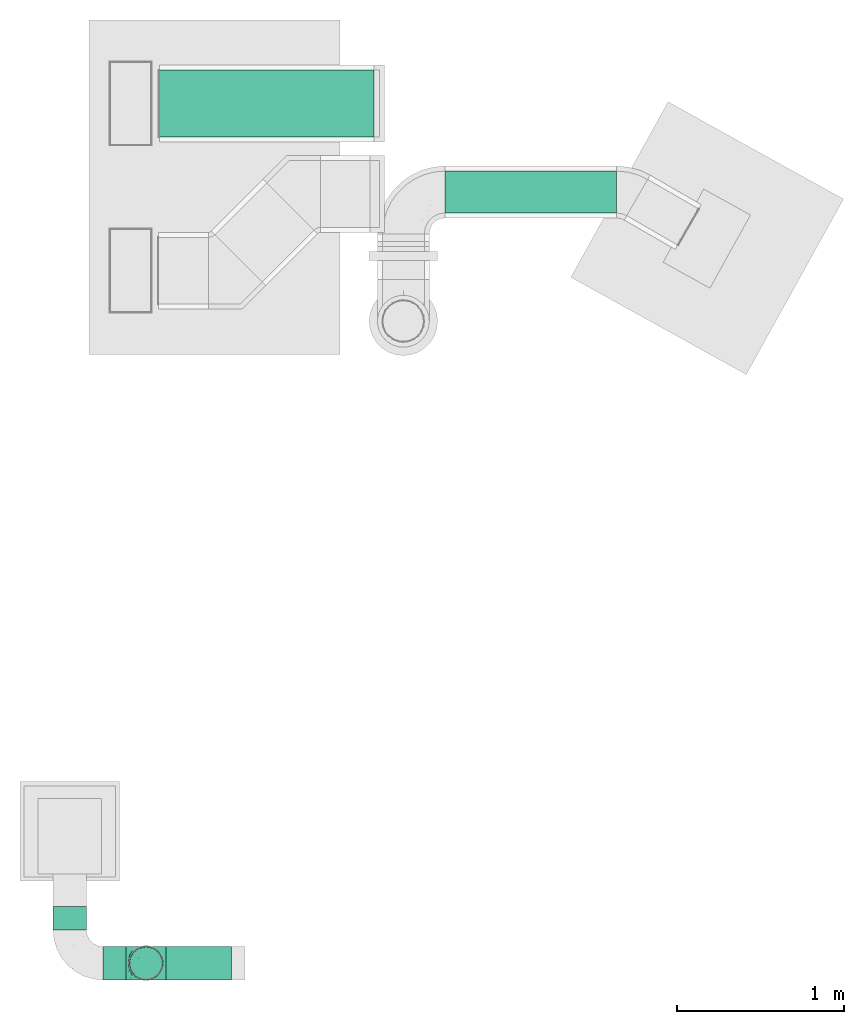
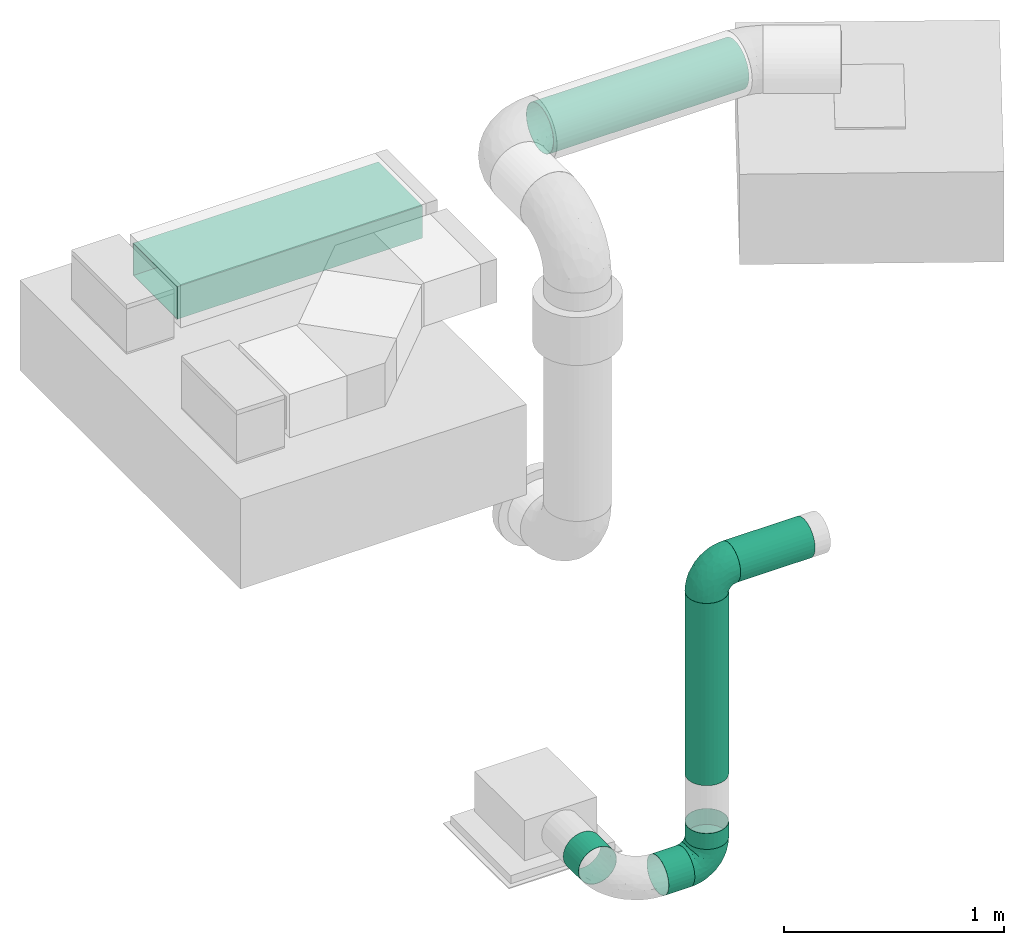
# One storey, part 3 of 9: 7 flow segments, 2 flow fittings.
"""IFC2X3 building model written with IfcOpenShell, lengths in millimetres."""

import ifcopenshell
import ifcopenshell.guid

model = None  # the IFC model being written
_history = None  # IfcOwnerHistory: only IFC2X3 demands one
_inside = {}  # id of a spatial element -> (the spatial element, [elements in it])
_under = {}  # id of a project, library or spatial element -> (it, [spatial elements below it])
_declared = {}  # id of a project -> (the project, [libraries it declares])
_typed = {}  # id of a type object -> (the type object, [elements of that type])
_made_of = {}  # id of a material, layer set ... -> (it, [elements and type objects made of it])


def new_model(schema):
    """Start an empty IFC model of exactly this schema.

    Asked for "IFC4X3", IfcOpenShell would pick the latest addendum, in which some entities
    have other attributes; the version numbers below select the first issue.
    IFC2X3 requires an IfcOwnerHistory on every rooted entity: one is made here for all.
    """
    global model, _history
    if schema == "IFC4X3":
        model = ifcopenshell.file(schema_version=(4, 3, 0, 0))
    else:
        model = ifcopenshell.file(schema=schema)
    _inside.clear()
    _under.clear()
    _declared.clear()
    _typed.clear()
    _made_of.clear()
    _history = None
    if model.schema == "IFC2X3":
        org = make("IfcOrganization", Name="unknown")
        user = make(
            "IfcPersonAndOrganization",
            ThePerson=make("IfcPerson", FamilyName="unknown"),
            TheOrganization=org,
        )
        app = make(
            "IfcApplication",
            ApplicationDeveloper=org,
            Version="unknown",
            ApplicationFullName="unknown",
            ApplicationIdentifier="unknown",
        )
        _history = make(
            "IfcOwnerHistory",
            OwningUser=user,
            OwningApplication=app,
            ChangeAction="ADDED",
            CreationDate=0,
        )
    return model


def make(cls, **values):
    """One entity of the class cls with the attributes given. An attribute that is None is left unset."""
    return model.create_entity(
        cls, **{name: value for name, value in values.items() if value is not None}
    )


def entity(cls, *values):
    """Any entity or typed value of the class cls, its attributes in the order of the schema. None: left unset."""
    e = model.create_entity(cls)
    for i, value in enumerate(values):
        if value is not None:
            e[i] = value
    return e


def rooted(cls, **values):
    """An entity with a GlobalId (a new one), such as an element, a storey or a relation."""
    return make(cls, GlobalId=ifcopenshell.guid.new(), OwnerHistory=_history, **values)


def si_unit(unit_type, name, prefix=None):
    """IfcSIUnit, for example si_unit("LENGTHUNIT", "METRE", prefix="MILLI")."""
    return make("IfcSIUnit", UnitType=unit_type, Prefix=prefix, Name=name)


def converted_unit(unit_type, name, factor, base, dimensions=None, offset=None):
    """IfcConversionBasedUnit, such as the inch: factor (a typed value) times the base unit."""
    return make(
        "IfcConversionBasedUnit"
        if offset is None
        else "IfcConversionBasedUnitWithOffset",
        ConversionOffset=offset,
        Dimensions=None
        if dimensions is None
        else entity("IfcDimensionalExponents", *dimensions),
        UnitType=unit_type,
        Name=name,
        ConversionFactor=make(
            "IfcMeasureWithUnit", ValueComponent=factor, UnitComponent=base
        ),
    )


def derived_unit(unit_type, elements):
    """IfcDerivedUnit: a product of units, each with its exponent."""
    return make(
        "IfcDerivedUnit",
        Elements=[
            make("IfcDerivedUnitElement", Unit=unit, Exponent=power)
            for unit, power in elements
        ],
        UnitType=unit_type,
    )


def assignment(units):
    """IfcUnitAssignment: the units of a project."""
    return None if units is None else make("IfcUnitAssignment", Units=units)


def point(xyz):
    """IfcCartesianPoint."""
    return None if xyz is None else make("IfcCartesianPoint", Coordinates=xyz)


def direction(xyz):
    """IfcDirection."""
    return None if xyz is None else make("IfcDirection", DirectionRatios=xyz)


def frame(location, z_axis=None, x_axis=None):
    """IfcAxis2Placement3D, a coordinate frame: its origin and axes. An axis left out is left unset."""
    return make(
        "IfcAxis2Placement3D",
        Location=point(location),
        Axis=direction(z_axis),
        RefDirection=direction(x_axis),
    )


def frame_2d(location, x_axis=None):
    """IfcAxis2Placement2D, a coordinate frame in the plane: its origin and x axis."""
    return make(
        "IfcAxis2Placement2D", Location=point(location), RefDirection=direction(x_axis)
    )


def origin_with_axes():
    """The frame at (0, 0, 0) with the z axis (0, 0, 1) and the x axis (1, 0, 0) written out."""
    return frame((0.0, 0.0, 0.0), z_axis=(0.0, 0.0, 1.0), x_axis=(1.0, 0.0, 0.0))


def origin_2d_with_axis():
    """The frame at (0, 0) in the plane with the x axis (1, 0) written out."""
    return frame_2d((0.0, 0.0), x_axis=(1.0, 0.0))


def place(relative_to, where):
    """IfcLocalPlacement: puts the frame where relative to a parent placement (None: the world)."""
    return make(
        "IfcLocalPlacement", PlacementRelTo=relative_to, RelativePlacement=where
    )


def context(
    kind, dimensions, precision=None, world=None, true_north=None, identifier=None
):
    """IfcGeometricRepresentationContext, for example the 3D "Model" context."""
    return make(
        "IfcGeometricRepresentationContext",
        ContextIdentifier=identifier,
        ContextType=kind,
        CoordinateSpaceDimension=dimensions,
        Precision=precision,
        WorldCoordinateSystem=world,
        TrueNorth=true_north,
    )


def subcontext(parent, identifier, kind, view, scale=None):
    """IfcGeometricRepresentationSubContext, for example "Body" below "Model"."""
    return make(
        "IfcGeometricRepresentationSubContext",
        ContextIdentifier=identifier,
        ContextType=kind,
        ParentContext=parent,
        TargetScale=scale,
        TargetView=view,
    )


def project(units=None, contexts=None):
    """IfcProject with its units and contexts."""
    return rooted(
        "IfcProject",
        Name="project",
        RepresentationContexts=contexts,
        UnitsInContext=assignment(units),
    )


def spatial(cls, under=None, at=None, **own):
    """A site, building, storey or space (cls), placed at a placement, below another one or the project."""
    s = rooted(cls, ObjectPlacement=at, **own)
    if under is not None:
        _under.setdefault(under.id(), (under, []))[1].append(s)
    return s


def profile(cls, at=None, kind="AREA", **sizes):
    """A parametric profile (cls). Its sizes go by their IFC names, for example OverallWidth=200.0."""
    return make(cls, ProfileType=kind, Position=at, **sizes)


def hollow_rectangle(**sizes):
    """IfcRectangleHollowProfileDef."""
    return profile("IfcRectangleHollowProfileDef", **sizes)


def hollow_circle(**sizes):
    """IfcCircleHollowProfileDef."""
    return profile("IfcCircleHollowProfileDef", **sizes)


def extrude(swept, where, along, depth):
    """IfcExtrudedAreaSolid: the profile swept, set in the frame where, extruded along a direction by depth."""
    return make(
        "IfcExtrudedAreaSolid",
        SweptArea=swept,
        Position=where,
        ExtrudedDirection=direction(along),
        Depth=depth,
    )


def faces_of(points, faces, orient=None, outer=None):
    """IfcFace entities. A face is a list of loops; a loop is a list of indices into points, from 0.

    orient and outer hold one flag for each loop. By default every Orientation is true, the
    first loop of a face is its IfcFaceOuterBound and the others are IfcFaceBound.
    """
    made = []
    for i, loops in enumerate(faces):
        bounds = []
        for j, loop in enumerate(loops):
            is_outer = j == 0 if outer is None else outer[i][j]
            bounds.append(
                make(
                    "IfcFaceOuterBound" if is_outer else "IfcFaceBound",
                    Bound=make("IfcPolyLoop", Polygon=[points[k] for k in loop]),
                    Orientation=True if orient is None else orient[i][j],
                )
            )
        made.append(make("IfcFace", Bounds=bounds))
    return made


def open_shell(faces, orient=None, outer=None):
    """The faces of one IfcOpenShell. surface_model builds it on its shared points."""
    return ("IfcOpenShell", faces, orient, outer)


def surface_model(cls, points, shells):
    """IfcFaceBasedSurfaceModel or IfcShellBasedSurfaceModel (cls): surfaces that need not close."""
    shared = [point(p) for p in points]
    made = [make(c, CfsFaces=faces_of(shared, fs, o, b)) for c, fs, o, b in shells]
    if cls == "IfcFaceBasedSurfaceModel":
        return make(cls, FbsmFaces=made)
    return make(cls, SbsmBoundary=made)


def shape(context_of_items, identifier, shape_type, items):
    """IfcShapeRepresentation: the items that make up one representation, for example the "Body"."""
    return make(
        "IfcShapeRepresentation",
        ContextOfItems=context_of_items,
        RepresentationIdentifier=identifier,
        RepresentationType=shape_type,
        Items=items,
    )


def source(mapping_origin, context_of_items, identifier, shape_type, items):
    """IfcRepresentationMap: a shape defined once, which mapped items show again and again."""
    return make(
        "IfcRepresentationMap",
        MappingOrigin=mapping_origin,
        MappedRepresentation=shape(context_of_items, identifier, shape_type, items),
    )


def transform(
    local_origin,
    x_axis=None,
    y_axis=None,
    z_axis=None,
    scale=None,
    scale2=None,
    scale3=None,
    uniform=True,
):
    """IfcCartesianTransformationOperator3D, or its non-uniform kind. x_axis, y_axis, z_axis: its Axis1, 2, 3."""
    if uniform:
        return make(
            "IfcCartesianTransformationOperator3D",
            Axis1=direction(x_axis),
            Axis2=direction(y_axis),
            LocalOrigin=point(local_origin),
            Scale=scale,
            Axis3=direction(z_axis),
        )
    return make(
        "IfcCartesianTransformationOperator3DnonUniform",
        Axis1=direction(x_axis),
        Axis2=direction(y_axis),
        LocalOrigin=point(local_origin),
        Scale=scale,
        Axis3=direction(z_axis),
        Scale2=scale2,
        Scale3=scale3,
    )


def mapped(mapping_source, mapping_target):
    """IfcMappedItem: shows the shape of a source again, moved by a transform."""
    return make(
        "IfcMappedItem", MappingSource=mapping_source, MappingTarget=mapping_target
    )


def made_of(thing, what):
    """Note that an element or type object is made of a material, layer set ...; save() writes the relation."""
    if what is not None:
        _made_of.setdefault(what.id(), (what, []))[1].append(thing)
    return thing


def type_object(cls, material=None, **own):
    """A type object (cls), such as IfcWallType, which elements share."""
    return made_of(rooted(cls, **own), material)


def element(
    cls,
    number,
    at=None,
    inside=None,
    cuts=None,
    type_object=None,
    material=None,
    context=None,
    identifier="Body",
    shape_type=None,
    held_by="IfcProductDefinitionShape",
    body=None,
    shapes=None,
    **own,
):
    """One element of the class cls, such as IfcWall. Its Tag is "e" and its number.

    at: its placement. inside: the storey or other place that contains it. cuts: it is an
    opening in that element (IfcRelVoidsElement). A single representation is given by context,
    identifier, shape_type and body (its items); several are given by shapes. held_by: the class
    of the entity that holds the representations. save() writes the other relations.
    """
    e = rooted(cls, Tag="e%d" % number, ObjectPlacement=at, **own)
    if body is not None:
        shapes = [shape(context, identifier, shape_type, body)]
    if shapes is not None:
        e.Representation = make(held_by, Representations=shapes)
    if inside is not None:
        _inside.setdefault(inside.id(), (inside, []))[1].append(e)
    if cuts is not None:
        rooted(
            "IfcRelVoidsElement", RelatingBuildingElement=cuts, RelatedOpeningElement=e
        )
    if type_object is not None:
        _typed.setdefault(type_object.id(), (type_object, []))[1].append(e)
    return made_of(e, material)


def aggregate(whole, parts):
    """IfcRelAggregates: a whole, such as a stair, and the parts it consists of."""
    return rooted("IfcRelAggregates", RelatingObject=whole, RelatedObjects=parts)


def save(model, path):
    """Write the relations noted so far, then the file.

    IfcRelAggregates (storeys below a building ...), IfcRelContainedInSpatialStructure (elements
    in a storey), IfcRelDefinesByType, IfcRelAssociatesMaterial and IfcRelDeclares: one each for
    every whole, place, type object, material and project.
    """
    for whole, parts in _under.values():
        aggregate(whole, parts)
    for where, things in _inside.values():
        rooted(
            "IfcRelContainedInSpatialStructure",
            RelatedElements=things,
            RelatingStructure=where,
        )
    for kind, things in _typed.values():
        rooted("IfcRelDefinesByType", RelatedObjects=things, RelatingType=kind)
    for what, things in _made_of.values():
        rooted("IfcRelAssociatesMaterial", RelatedObjects=things, RelatingMaterial=what)
    for by, libraries in _declared.values():
        rooted("IfcRelDeclares", RelatingContext=by, RelatedDefinitions=libraries)
    model.write(path)


model = new_model("IFC2X3")

# Units and contexts
model_context = context("Model", 3, precision=0.01, world=frame((0.0, 4.29681676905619e-09, 0.0)), true_north=direction((4.01073788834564e-13, 1.0)))
plan_context = context("Plan", 3, precision=0.01, world=frame((0.0, 4.29681676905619e-09, 0.0)), true_north=direction((4.01073788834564e-13, 1.0)))
body_context = subcontext(model_context, "Body", "Model", "MODEL_VIEW")
ifc_project = project(units=[converted_unit("PLANEANGLEUNIT", "DEGREE", entity("IfcPositiveLengthMeasure", 0.0174532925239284), si_unit("PLANEANGLEUNIT", "RADIAN"), dimensions=[0, 0, 0, 0, 0, 0, 0]), si_unit("AREAUNIT", "SQUARE_METRE"), si_unit("LENGTHUNIT", "METRE", prefix="MILLI"), si_unit("MASSUNIT", "GRAM", prefix="KILO"), si_unit("POWERUNIT", "WATT"), si_unit("PRESSUREUNIT", "PASCAL"), si_unit("FORCEUNIT", "NEWTON", prefix="KILO"), si_unit("ELECTRICVOLTAGEUNIT", "VOLT"), si_unit("ELECTRICCURRENTUNIT", "AMPERE"), si_unit("THERMODYNAMICTEMPERATUREUNIT", "DEGREE_CELSIUS"), si_unit("TIMEUNIT", "SECOND"), si_unit("VOLUMEUNIT", "CUBIC_METRE"), derived_unit("LINEARVELOCITYUNIT", [(si_unit("LENGTHUNIT", "METRE"), 1), (si_unit("TIMEUNIT", "SECOND"), -1)]), derived_unit("VOLUMETRICFLOWRATEUNIT", [(si_unit("VOLUMEUNIT", "CUBIC_METRE"), 1), (si_unit("TIMEUNIT", "SECOND"), -1)]), derived_unit("THERMALTRANSMITTANCEUNIT", [(si_unit("POWERUNIT", "WATT"), 1), (si_unit("THERMODYNAMICTEMPERATUREUNIT", "KELVIN"), -1), (si_unit("AREAUNIT", "SQUARE_METRE"), -1)]), derived_unit("SOUNDPRESSUREUNIT", [(si_unit("PRESSUREUNIT", "PASCAL"), 1)])], contexts=[model_context, plan_context])

# Site, building, storey
site_placement = place(None, frame((0.0, -4.29681676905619e-09, 0.0), z_axis=(0.0, 0.0, 1.0), x_axis=(1.0, 0.0, 0.0)))
site = spatial("IfcSite", under=ifc_project, at=site_placement, CompositionType="ELEMENT")
building_placement = place(site_placement, frame((0.0, 4.29681676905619e-09, 0.0), z_axis=(0.0, 0.0, 1.0), x_axis=(1.0, 0.0, 0.0)))
building = spatial("IfcBuilding", under=site, at=building_placement, Name="mc-building", CompositionType="ELEMENT")
storey_placement = place(building_placement, frame((0.0, 0.0, 210200.0), z_axis=(0.0, 0.0, 1.0), x_axis=(1.0, 0.0, 0.0)))
storey = spatial("IfcBuildingStorey", under=building, at=storey_placement, Name="Nivå F -0,7m", CompositionType="ELEMENT", Elevation=210200.0)

# Flow fittings
duct_fitting_type = type_object("IfcDuctFittingType", Name="magicirc_elbow_short_001", PredefinedType="BEND")
shared_shape_1 = source(origin_with_axes(), body_context, "Body", "SurfaceModel", [
    surface_model("IfcShellBasedSurfaceModel", [(-120.0, 0.0, -100.0), (-120.0, -86.60254, -50.0), (-120.0, 25.8819, -96.59259), (-120.0, 50.0, -86.60254), (-120.0, 70.71068, -70.71068), (-120.0, 96.59259, -25.8819), (-120.0, 86.60254, -50.0), (-120.0, -50.0, -86.60254), (-120.0, -70.71068, -70.71068), (-120.0, -25.8819, -96.59259), (-120.0, -96.59259, -25.8819), (-120.0, -100.0, 0.0), (-120.0, 96.59259, 25.8819), (-120.0, -96.59259, 25.8819), (-120.0, 86.60254, 50.0), (-120.0, 25.8819, 96.59259), (-120.0, 50.0, 86.60254), (-120.0, 70.71068, 70.71068), (-120.0, -25.8819, 96.59259), (-120.0, -70.71068, 70.71068), (-120.0, -50.0, 86.60254), (-120.0, -86.60254, 50.0), (-120.0, 0.0, 100.0), (-120.0, 100.0, 0.0), (-25.8819, 120.0, -96.59259), (70.71068, 120.0, -70.71068), (0.0, 120.0, -100.0), (-70.71068, 120.0, -70.71068), (-50.0, 120.0, -86.60254), (-86.60254, 120.0, -50.0), (-96.59259, 120.0, -25.8819), (86.60254, 120.0, -50.0), (25.8819, 120.0, -96.59259), (50.0, 120.0, -86.60254), (100.0, 120.0, 0.0), (96.59259, 120.0, -25.8819), (-96.59259, 120.0, 25.8819), (96.59259, 120.0, 25.8819), (-25.8819, 120.0, 96.59259), (-86.60254, 120.0, 50.0), (-70.71068, 120.0, 70.71068), (-50.0, 120.0, 86.60254), (25.8819, 120.0, 96.59259), (86.60254, 120.0, 50.0), (50.0, 120.0, 86.60254), (70.71068, 120.0, 70.71068), (0.0, 120.0, 100.0), (-100.0, 120.0, 0.0), (-57.47657, 95.22229, 84.95805), (-85.33946, -92.96309, 28.79275), (-95.20929, -97.20676, 0.0), (-84.48473, -65.01559, 72.95431), (-52.96075, -70.60035, 57.16979), (-58.29219, -58.77958, 72.2572), (-71.0454, -94.48414, 0.0), (-33.46621, 86.30074, 96.24781), (-7.45333, 88.76819, 99.94878), (-26.53059, -25.83103, 84.66541), (5.23459, -24.1841, 70.44192), (-1.23107, 1.23105, 87.74618), (-103.71213, 103.71213, 24.44784), (-95.28171, 98.70414, 48.64074), (-78.83961, -43.63421, 87.3226), (48.45058, -8.12007, 40.03254), (39.62941, -27.51041, 22.8702), (55.13075, -9.11298, 21.86769), (27.15427, -27.15428, 47.29752), (-0.9865, -46.35038, 53.41318), (-49.25997, -85.42957, 23.21428), (-69.41482, -80.94006, 48.93369), (34.63169, 2.36241, 66.9375), (-59.03727, -17.74459, 95.19283), (-92.36993, -18.34983, 97.75252), (-98.24586, -81.70799, 55.95793), (-87.21661, 7.38787, 99.96319), (-79.82304, 33.86298, 96.83649), (-103.25245, 34.36931, 94.48617), (-49.8635, 16.95363, 99.89181), (-93.99414, 57.52782, 85.21417), (-13.524, 31.6217, 98.29715), (-30.34675, -2.85909, 94.71053), (-102.74619, 77.59979, 67.01377), (-105.2102, 88.7141, 52.03645), (94.48414, 71.0454, 0.0), (92.96309, 85.33946, 28.79275), (85.42957, 49.25997, 23.21428), (18.34983, 92.36993, 97.75252), (-37.44754, -44.66633, 76.66985), (-66.8783, 56.54931, 92.80405), (65.01559, 84.48473, 72.95431), (43.6342, 78.83961, 87.3226), (37.67702, 38.38344, 81.78155), (58.58205, 33.30331, 61.93165), (58.77958, 58.29217, 72.2572), (14.52663, -47.57763, 31.54394), (81.70799, 98.24586, 55.95793), (97.20676, 95.20929, 0.0), (75.2275, 38.8764, 40.54554), (80.94006, 69.41482, 48.93369), (-19.32309, 64.21329, 99.87988), (-105.85786, 105.85786, 0.0), (17.74458, 59.03726, 95.19283), (70.60036, 52.96074, 57.16978), (-82.76473, 82.76473, 73.92657), (-77.59979, 102.74619, 67.01377), (-38.87641, -75.2275, 40.54555), (-40.86148, 50.04827, 98.96107), (-25.82378, -76.70765, 19.45345), (-49.50418, 71.23352, 93.94065), (-57.3172, 35.12243, 98.9453), (65.10804, 3.68891, 0.0), (65.80674, 11.30259, 30.40508), (15.01777, 28.10412, 90.12797), (-0.1518, 65.0789, 99.29745), (-47.79548, -86.34864, 0.0), (-67.45496, 75.91085, 85.7741), (-3.68891, -65.10804, 0.0), (17.16776, -52.00293, 0.0), (-11.30259, -65.80674, 30.40508), (-24.54558, -78.21315, 0.0), (76.76895, 27.91333, 23.28633), (86.34864, 47.79548, 0.0), (58.40844, 13.74403, 48.13414), (52.00293, -17.16776, 0.0), (20.33542, 8.19535, 80.42602), (-51.11653, -33.50476, 87.58865), (-33.30333, -58.58206, 61.93166), (-17.26255, -60.80757, 47.57586), (78.21315, 24.54558, 0.0), (34.58534, -34.58534, 0.0), (-86.30074, 33.4662, -96.24781), (-34.36932, 103.25245, -94.48617), (-11.30259, -65.80673, -30.40508), (9.11298, -55.13075, -21.86769), (-98.24586, -81.70799, -55.95793), (-88.7682, 7.45333, -99.94878), (43.63421, 78.83961, -87.3226), (-98.70414, 95.28171, -48.64074), (-82.76473, 82.76473, -73.92657), (-102.74619, 77.59979, -67.01377), (85.42957, 49.25997, -23.21428), (75.22749, 38.8764, -40.54555), (80.94006, 69.41482, -48.93369), (27.15427, -27.15428, -47.29753), (47.57763, -14.52663, -31.54396), (27.51041, -39.62941, -22.8702), (-71.23352, 49.50417, -93.94066), (-56.54932, 66.8783, -92.80405), (-50.04827, 40.86148, -98.96107), (-33.86298, 79.82303, -96.83649), (-57.52782, 93.99414, -85.21417), (-16.95364, 49.8635, -99.89182), (-31.6217, 13.52399, -98.29715), (-85.33946, -92.96309, -28.79275), (24.18408, -5.23461, -70.44192), (46.35038, 0.9865, -53.41318), (65.01559, 84.48472, -72.95431), (-84.48473, -65.01559, -72.95431), (-78.83961, -43.63421, -87.3226), (-103.71213, 103.71213, -24.44784), (-95.22229, 57.47657, -84.95805), (-49.25997, -85.42957, -23.21428), (-92.36993, -18.34984, -97.75252), (-38.87641, -75.2275, -40.54555), (-69.41482, -80.94006, -48.93369), (-88.7141, 105.2102, -52.03645), (-7.38786, 87.21659, -99.96319), (17.74459, 59.03726, -95.19283), (-33.30333, -58.58206, -61.93166), (-52.96075, -70.60035, -57.16979), (-77.59979, 102.74619, -67.01377), (-38.38346, -37.67703, -81.78155), (-2.36242, -34.6317, -66.93751), (18.34983, 92.36993, -97.75252), (81.70799, 98.24586, -55.95793), (8.12006, -48.45058, -40.03254), (-1.23106, 1.23105, -87.74618), (25.83103, 26.53058, -84.6654), (92.96309, 85.33946, -28.79275), (76.70765, 25.82378, -19.45345), (-59.03727, -17.74459, -95.19283), (2.8591, 30.34673, -94.71053), (-64.21329, 19.32309, -99.87988), (58.77958, 58.29219, -72.2572), (70.60035, 52.96075, -57.16979), (-58.29219, -58.77958, -72.2572), (-35.12244, 57.3172, -98.9453), (44.66633, 37.44754, -76.66985), (-28.10413, -15.01778, -90.12797), (-65.07891, 0.1518, -99.29745), (-75.91086, 67.45496, -85.7741), (-27.91333, -76.76895, -23.28633), (-13.74403, -58.40844, -48.13415), (65.80673, 11.30258, -30.40508), (-8.19536, -20.33543, -80.42602), (33.50476, 51.11653, -87.58865), (58.58205, 33.30333, -61.93166), (60.80757, 17.26255, -47.57586)], [open_shell([[[0, 1, 2]], [[3, 2, 4]], [[5, 6, 4]], [[1, 4, 2]], [[4, 1, 5]], [[7, 8, 9]], [[8, 0, 9]], [[10, 11, 1]], [[1, 0, 8]], [[1, 11, 5]], [[11, 12, 5]], [[12, 11, 13]], [[14, 12, 15]], [[15, 16, 17]], [[14, 15, 17]], [[15, 12, 18]], [[19, 20, 21]], [[13, 21, 20]], [[13, 20, 12]], [[20, 18, 12]], [[18, 22, 15]], [[23, 5, 12]], [[24, 25, 26]], [[27, 24, 28]], [[27, 29, 30]], [[24, 27, 31]], [[30, 31, 27]], [[32, 25, 33]], [[32, 26, 25]], [[31, 34, 35]], [[25, 24, 31]], [[30, 34, 31]], [[30, 36, 34]], [[37, 34, 36]], [[38, 36, 39]], [[40, 41, 38]], [[40, 38, 39]], [[42, 36, 38]], [[43, 44, 45]], [[44, 43, 37]], [[36, 44, 37]], [[36, 42, 44]], [[38, 46, 42]], [[36, 30, 47]], [[41, 40, 48]], [[49, 13, 50]], [[49, 21, 13]], [[51, 52, 53]], [[50, 54, 49]], [[38, 55, 56]], [[57, 58, 59]], [[60, 61, 36]], [[20, 51, 62]], [[63, 64, 65]], [[66, 58, 67]], [[49, 68, 69]], [[20, 19, 51]], [[58, 66, 70]], [[62, 71, 72]], [[22, 18, 72]], [[73, 19, 21]], [[74, 75, 76]], [[75, 74, 77]], [[16, 76, 78]], [[79, 77, 80]], [[17, 81, 14]], [[82, 12, 14]], [[81, 82, 14]], [[23, 12, 60]], [[83, 84, 85]], [[16, 78, 17]], [[41, 48, 55]], [[42, 46, 86]], [[53, 87, 62]], [[18, 20, 62]], [[75, 88, 78]], [[89, 45, 44]], [[86, 90, 42]], [[60, 12, 82]], [[44, 42, 90]], [[91, 92, 93]], [[84, 37, 43]], [[66, 94, 64]], [[90, 89, 44]], [[45, 95, 43]], [[84, 96, 37]], [[97, 85, 98]], [[15, 76, 16]], [[99, 56, 55]], [[100, 23, 60]], [[91, 90, 101]], [[100, 60, 47]], [[92, 97, 102]], [[103, 104, 61]], [[68, 105, 69]], [[106, 77, 79]], [[61, 39, 36]], [[40, 39, 104]], [[15, 22, 74]], [[107, 105, 68]], [[108, 88, 106]], [[55, 38, 41]], [[56, 46, 38]], [[92, 91, 70]], [[109, 77, 106]], [[110, 111, 65]], [[74, 71, 77]], [[72, 74, 22]], [[80, 71, 57]], [[75, 109, 88]], [[81, 78, 103]], [[112, 79, 59]], [[113, 56, 99]], [[68, 54, 114]], [[73, 49, 69]], [[95, 84, 43]], [[85, 84, 98]], [[104, 48, 40]], [[115, 88, 108]], [[108, 99, 55]], [[56, 113, 86]], [[102, 93, 92]], [[95, 89, 98]], [[73, 51, 19]], [[52, 69, 105]], [[116, 117, 118]], [[68, 119, 107]], [[107, 116, 118]], [[67, 94, 66]], [[97, 111, 120]], [[85, 121, 83]], [[70, 63, 122]], [[65, 123, 110]], [[101, 112, 91]], [[66, 64, 63]], [[124, 91, 112]], [[70, 124, 58]], [[59, 80, 57]], [[58, 87, 67]], [[57, 125, 87]], [[58, 57, 87]], [[99, 108, 106]], [[78, 88, 115]], [[56, 86, 46]], [[90, 86, 101]], [[62, 72, 18]], [[74, 72, 71]], [[61, 104, 39]], [[104, 103, 115]], [[78, 81, 17]], [[82, 103, 61]], [[126, 127, 67]], [[67, 127, 94]], [[85, 128, 121]], [[94, 129, 64]], [[110, 120, 111]], [[63, 65, 111]], [[122, 63, 111]], [[70, 66, 63]], [[79, 80, 59]], [[77, 71, 80]], [[106, 79, 99]], [[113, 79, 101]], [[55, 48, 108]], [[48, 104, 115]], [[48, 115, 108]], [[78, 115, 103]], [[127, 105, 118]], [[105, 127, 52]], [[53, 52, 126]], [[51, 69, 52]], [[87, 53, 126]], [[62, 51, 53]], [[87, 126, 67]], [[57, 71, 125]], [[71, 62, 125]], [[62, 87, 125]], [[102, 97, 98]], [[122, 97, 92]], [[98, 89, 102]], [[93, 102, 89]], [[89, 90, 93]], [[91, 93, 90]], [[97, 122, 111]], [[70, 122, 92]], [[79, 113, 99]], [[86, 113, 101]], [[64, 123, 65]], [[85, 97, 120]], [[79, 112, 101]], [[120, 110, 128]], [[124, 112, 59]], [[58, 124, 59]], [[91, 124, 70]], [[103, 82, 81]], [[82, 61, 60]], [[13, 11, 50]], [[96, 84, 83]], [[96, 34, 37]], [[47, 60, 36]], [[74, 76, 15]], [[78, 76, 75]], [[49, 73, 21]], [[51, 73, 69]], [[89, 95, 45]], [[84, 95, 98]], [[88, 109, 106]], [[75, 77, 109]], [[54, 68, 49]], [[114, 119, 68]], [[105, 107, 118]], [[107, 119, 116]], [[117, 94, 118]], [[127, 126, 52]], [[94, 127, 118]], [[129, 94, 117]], [[129, 123, 64]], [[128, 85, 120]], [[3, 130, 2]], [[24, 131, 28]], [[132, 133, 116]], [[8, 134, 1]], [[2, 135, 0]], [[32, 33, 136]], [[137, 138, 139]], [[140, 141, 142]], [[6, 139, 4]], [[143, 144, 145]], [[6, 5, 137]], [[146, 147, 148]], [[149, 147, 150]], [[148, 151, 152]], [[1, 153, 10]], [[143, 154, 155]], [[153, 50, 10]], [[33, 25, 156]], [[157, 7, 158]], [[159, 137, 5]], [[8, 7, 157]], [[7, 9, 158]], [[3, 4, 160]], [[35, 34, 96]], [[54, 153, 161]], [[9, 162, 158]], [[163, 161, 164]], [[165, 30, 29]], [[23, 100, 159]], [[166, 167, 151]], [[47, 30, 159]], [[168, 163, 169]], [[29, 170, 165]], [[24, 26, 166]], [[168, 171, 172]], [[27, 170, 29]], [[149, 131, 166]], [[160, 130, 3]], [[149, 166, 151]], [[136, 167, 173]], [[174, 25, 31]], [[27, 28, 150]], [[28, 131, 150]], [[32, 173, 26]], [[136, 33, 156]], [[154, 143, 172]], [[2, 130, 135]], [[133, 175, 145]], [[154, 176, 177]], [[9, 0, 162]], [[140, 142, 178]], [[179, 141, 140]], [[96, 83, 178]], [[35, 96, 178]], [[171, 158, 180]], [[152, 151, 181]], [[182, 135, 130]], [[183, 156, 184]], [[171, 168, 185]], [[178, 31, 35]], [[173, 166, 26]], [[159, 5, 23]], [[149, 151, 186]], [[183, 187, 136]], [[181, 167, 177]], [[149, 186, 147]], [[170, 150, 138]], [[188, 152, 176]], [[189, 135, 182]], [[134, 153, 1]], [[161, 153, 164]], [[140, 83, 121]], [[174, 178, 142]], [[139, 160, 4]], [[190, 147, 146]], [[146, 182, 130]], [[135, 189, 162]], [[169, 185, 168]], [[134, 157, 164]], [[174, 156, 25]], [[184, 142, 141]], [[163, 132, 191]], [[161, 114, 54]], [[172, 175, 192]], [[133, 117, 116]], [[110, 123, 193]], [[140, 128, 179]], [[179, 110, 193]], [[155, 144, 143]], [[180, 188, 171]], [[143, 145, 175]], [[194, 171, 188]], [[172, 194, 154]], [[176, 181, 177]], [[154, 187, 155]], [[177, 195, 187]], [[154, 177, 187]], [[182, 146, 148]], [[150, 147, 190]], [[135, 162, 0]], [[158, 162, 180]], [[136, 173, 32]], [[166, 173, 167]], [[137, 139, 6]], [[139, 138, 190]], [[150, 170, 27]], [[165, 138, 137]], [[196, 197, 155]], [[155, 197, 144]], [[197, 196, 184]], [[144, 129, 145]], [[116, 191, 132]], [[175, 133, 132]], [[192, 175, 132]], [[172, 143, 175]], [[152, 181, 176]], [[151, 167, 181]], [[148, 152, 182]], [[189, 152, 180]], [[130, 160, 146]], [[160, 139, 190]], [[160, 190, 146]], [[150, 190, 138]], [[169, 163, 164]], [[192, 163, 168]], [[164, 157, 169]], [[185, 169, 157]], [[157, 158, 185]], [[171, 185, 158]], [[197, 141, 193]], [[141, 197, 184]], [[183, 184, 196]], [[156, 142, 184]], [[187, 183, 196]], [[136, 156, 183]], [[187, 196, 155]], [[177, 167, 195]], [[167, 136, 195]], [[136, 187, 195]], [[163, 192, 132]], [[172, 192, 168]], [[152, 189, 182]], [[162, 189, 180]], [[145, 117, 133]], [[161, 163, 191]], [[152, 188, 180]], [[191, 116, 119]], [[194, 188, 176]], [[154, 194, 176]], [[171, 194, 172]], [[138, 165, 170]], [[165, 137, 159]], [[50, 153, 54]], [[50, 11, 10]], [[47, 159, 100]], [[159, 30, 165]], [[166, 131, 24]], [[150, 131, 149]], [[178, 174, 31]], [[156, 174, 142]], [[157, 134, 8]], [[153, 134, 164]], [[151, 148, 186]], [[147, 186, 148]], [[161, 119, 114]], [[83, 140, 178]], [[121, 128, 140]], [[141, 179, 193]], [[179, 128, 110]], [[123, 144, 193]], [[144, 197, 193]], [[129, 144, 123]], [[129, 117, 145]], [[119, 161, 191]]])]),
])
for number, where, z_axis, x_axis, name in (
    (1, (522641.60696, 451822.14993, 4900.0), (0.0, -1.0, 0.0), (-1.0, 0.0, 0.0), "magicirc_elbow_short_001"),
    (2, (522641.60696, 451822.14993, 3298.0), (0.0, 1.0, 0.0), (0.0, 0.0, -1.0), "magicirc_elbow_short_001"),
):
    element("IfcFlowFitting", number, at=place(storey_placement, frame(where, z_axis=z_axis, x_axis=x_axis)), inside=storey, type_object=duct_fitting_type, Name=name, context=body_context, shape_type="MappedRepresentation", body=[
        mapped(shared_shape_1, transform((0.0, 0.0, 0.0), scale=1.0)),
    ])

# Flow segments
duct_segment_type_1 = type_object("IfcDuctSegmentType", Name="KK002T - Spiro kanaler, Forsinket stål, korte bend", PredefinedType="RIGIDSEGMENT")
shared_shape_2 = source(origin_with_axes(), body_context, "Body", "SweptSolid", [
    extrude(hollow_circle(Radius=100.0, WallThickness=2.0, at=origin_2d_with_axis()), frame((0.0, 0.0, 0.0), z_axis=(1.0, 0.0, 0.0), x_axis=(0.0, 1.0, 0.0)), (0.0, 0.0, 1.0), 390.0),
])
flow_segment_1_placement = place(storey_placement, frame((523151.60694, 451822.14993, 4900.0), z_axis=(0.0, 0.0, 1.0), x_axis=(-1.0, 0.0, 0.0)))
element("IfcFlowSegment", 3, at=flow_segment_1_placement, inside=storey, type_object=duct_segment_type_1, Name="KK002T - Spiro kanaler, Forsinket stål, korte bend", context=body_context, shape_type="MappedRepresentation", body=[
    mapped(shared_shape_2, transform((0.0, 0.0, 0.0), scale=1.0)),
])
shared_shape_3 = source(origin_with_axes(), body_context, "Body", "SweptSolid", [
    extrude(hollow_circle(Radius=100.0, WallThickness=2.0, at=origin_2d_with_axis()), frame((0.0, 0.0, 0.0), z_axis=(1.0, 0.0, 0.0), x_axis=(0.0, 1.0, 0.0)), (0.0, 0.0, 1.0), 1009.0),
])
flow_segment_2_placement = place(storey_placement, frame((522641.60696, 451822.14993, 4780.0), z_axis=(1.0, 0.0, 0.0), x_axis=(0.0, 0.0, -1.0)))
element("IfcFlowSegment", 4, at=flow_segment_2_placement, inside=storey, type_object=duct_segment_type_1, Name="KK002T - Spiro kanaler, Forsinket stål, korte bend", context=body_context, shape_type="MappedRepresentation", body=[
    mapped(shared_shape_3, transform((0.0, 0.0, 0.0), scale=1.0)),
])
shared_shape_4 = source(origin_with_axes(), body_context, "Body", "SweptSolid", [
    extrude(hollow_circle(Radius=100.0, WallThickness=2.0, at=origin_2d_with_axis()), frame((0.0, 0.0, 0.0), z_axis=(1.0, 0.0, 0.0), x_axis=(0.0, 1.0, 0.0)), (0.0, 0.0, 1.0), 88.0),
])
flow_segment_3_placement = place(storey_placement, frame((522641.60696, 451822.14993, 3506.03314000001), z_axis=(0.0, 1.0, 0.0), x_axis=(0.0, 0.0, -1.0)))
element("IfcFlowSegment", 5, at=flow_segment_3_placement, inside=storey, type_object=duct_segment_type_1, Name="KK002T - Spiro kanaler, Forsinket stål, korte bend", context=body_context, shape_type="MappedRepresentation", body=[
    mapped(shared_shape_4, transform((0.0, 0.0, 0.0), scale=1.0)),
])
duct_segment_type_2 = type_object("IfcDuctSegmentType", Name="Sirkulær kanal", PredefinedType="RIGIDSEGMENT")
shared_shape_5 = source(origin_with_axes(), body_context, "Body", "SweptSolid", [
    extrude(hollow_circle(Radius=100.0, WallThickness=2.0, at=origin_2d_with_axis()), frame((0.0, 0.0, 0.0), z_axis=(1.0, 0.0, 0.0), x_axis=(0.0, 1.0, 0.0)), (0.0, 0.0, 1.0), 139.6),
])
flow_segment_4_placement = place(storey_placement, frame((522185.29437, 452161.77275, 3298.0), z_axis=(0.0, 0.0, 1.0), x_axis=(0.0, -1.0, 0.0)))
element("IfcFlowSegment", 6, at=flow_segment_4_placement, inside=storey, type_object=duct_segment_type_2, Name="Sirkulær kanal", context=body_context, shape_type="MappedRepresentation", body=[
    mapped(shared_shape_5, transform((0.0, 0.0, 0.0), scale=1.0)),
])
shared_shape_6 = source(origin_with_axes(), body_context, "Body", "SweptSolid", [
    extrude(hollow_circle(Radius=100.0, WallThickness=2.0, at=origin_2d_with_axis()), frame((0.0, 0.0, 0.0), z_axis=(1.0, 0.0, 0.0), x_axis=(0.0, 1.0, 0.0)), (0.0, 0.0, 1.0), 136.3),
])
flow_segment_5_placement = place(storey_placement, frame((522385.29437, 451822.14993, 3298.0), z_axis=(0.0, 0.0, 1.0), x_axis=(1.0, 0.0, 0.0)))
element("IfcFlowSegment", 7, at=flow_segment_5_placement, inside=storey, type_object=duct_segment_type_1, Name="KK002T - Spiro kanaler, Forsinket stål, korte bend", context=body_context, shape_type="MappedRepresentation", body=[
    mapped(shared_shape_6, transform((0.0, 0.0, 0.0), scale=1.0)),
])
duct_segment_type_3 = type_object("IfcDuctSegmentType", Name="Rectangular duct", PredefinedType="RIGIDSEGMENT")
shared_shape_7 = source(origin_with_axes(), body_context, "Body", "SweptSolid", [
    extrude(hollow_rectangle(XDim=400.0, YDim=180.0, WallThickness=2.0, at=origin_2d_with_axis()), frame((0.0, 0.0, 0.0), z_axis=(1.0, 0.0, 0.0), x_axis=(0.0, 1.0, 0.0)), (0.0, 0.0, 1.0), 1285.0),
])
flow_segment_6_placement = place(storey_placement, frame((524005.93348, 456964.0, 3350.0), z_axis=(0.0, 0.0, 1.0), x_axis=(-1.0, 0.0, 0.0)))
element("IfcFlowSegment", 8, at=flow_segment_6_placement, inside=storey, type_object=duct_segment_type_3, Name="Rectangular duct", context=body_context, shape_type="MappedRepresentation", body=[
    mapped(shared_shape_7, transform((0.0, 0.0, 0.0), scale=1.0)),
])
duct_segment_type_4 = type_object("IfcDuctSegmentType", Name="KK001T - Spiro kanaler, Forsinket stål", PredefinedType="RIGIDSEGMENT")
shared_shape_8 = source(origin_with_axes(), body_context, "Body", "SweptSolid", [
    extrude(hollow_circle(Radius=125.0, WallThickness=2.0, at=origin_2d_with_axis()), frame((0.0, 0.0, 0.0), z_axis=(1.0, 0.0, 0.0), x_axis=(0.0, 1.0, 0.0)), (0.0, 0.0, 1.0), 1023.4),
])
flow_segment_7_placement = place(storey_placement, frame((524430.93348, 456435.47356, 3920.0), z_axis=(0.0, 0.0, 1.0), x_axis=(1.0, 0.0, 0.0)))
element("IfcFlowSegment", 9, at=flow_segment_7_placement, inside=storey, type_object=duct_segment_type_4, Name="KK001T - Spiro kanaler, Forsinket stål", context=body_context, shape_type="MappedRepresentation", body=[
    mapped(shared_shape_8, transform((0.0, 0.0, 0.0), scale=1.0)),
])

save(model, "model.ifc")
